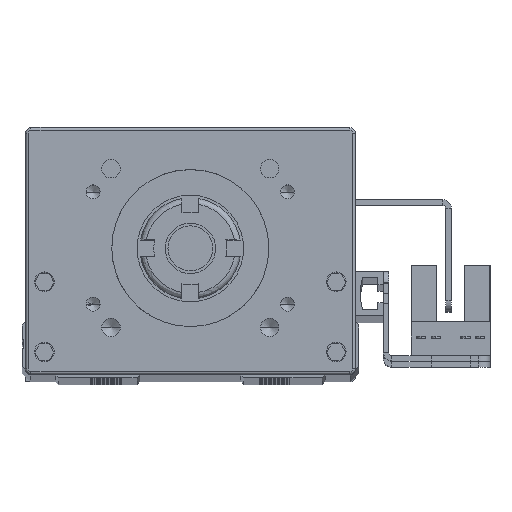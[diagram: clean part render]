
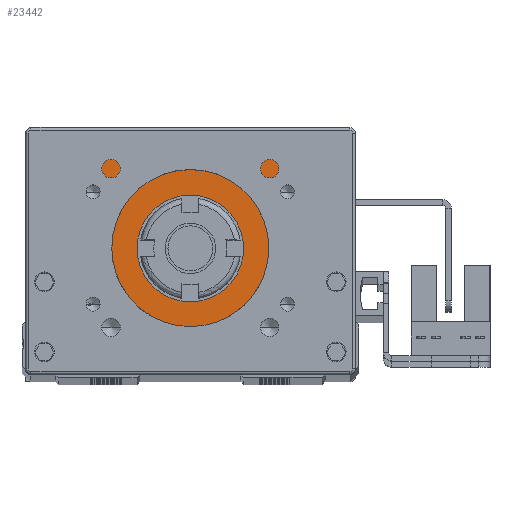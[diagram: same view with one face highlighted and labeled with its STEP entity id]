
A CAD part, top view. The second image highlights one B-rep face of the part: STEP entity #23442.
In plain terms, the highlighted planar face has unit normal (0, 0, 1).
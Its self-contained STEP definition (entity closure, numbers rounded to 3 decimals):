
#826 = ORIENTED_EDGE ( 'NONE', *, *, #50977, .F. ) ;
#955 = VECTOR ( 'NONE', #44583, 1000. ) ;
#1130 = LINE ( 'NONE', #20247, #36645 ) ;
#2844 = VERTEX_POINT ( 'NONE', #44992 ) ;
#3441 = ORIENTED_EDGE ( 'NONE', *, *, #48577, .F. ) ;
#3517 = CARTESIAN_POINT ( 'NONE',  ( 12.335, 12.398, 368.5 ) ) ;
#3950 = DIRECTION ( 'NONE',  ( -1., 0., 0. ) ) ;
#4101 = CARTESIAN_POINT ( 'NONE',  ( 11.335, 44.398, 368.5 ) ) ;
#5013 = CIRCLE ( 'NONE', #17522, 9.5 ) ;
#5649 = VERTEX_POINT ( 'NONE', #34800 ) ;
#7016 = EDGE_CURVE ( 'NONE', #8410, #59598, #48194, .T. ) ;
#7990 = CARTESIAN_POINT ( 'NONE',  ( 52.335, 35.398, 368.5 ) ) ;
#8410 = VERTEX_POINT ( 'NONE', #60158 ) ;
#8625 = DIRECTION ( 'NONE',  ( -1., 0., 0. ) ) ;
#9176 = DIRECTION ( 'NONE',  ( -1., 0., 0. ) ) ;
#9302 = VERTEX_POINT ( 'NONE', #15714 ) ;
#10356 = LINE ( 'NONE', #54919, #37309 ) ;
#11250 = CARTESIAN_POINT ( 'NONE',  ( 12.335, 12.398, 368.5 ) ) ;
#12679 = LINE ( 'NONE', #61239, #25762 ) ;
#13241 = LINE ( 'NONE', #57735, #19375 ) ;
#13912 = ORIENTED_EDGE ( 'NONE', *, *, #23345, .T. ) ;
#14697 = CARTESIAN_POINT ( 'NONE',  ( 52.335, 44.398, 368.5 ) ) ;
#15269 = CARTESIAN_POINT ( 'NONE',  ( 24.351, 12.398, 368.5 ) ) ;
#15714 = CARTESIAN_POINT ( 'NONE',  ( 11.335, 45.398, 368.5 ) ) ;
#16278 = DIRECTION ( 'NONE',  ( 0., 0., 1. ) ) ;
#16382 = DIRECTION ( 'NONE',  ( 0., 1., 0. ) ) ;
#16436 = VECTOR ( 'NONE', #3950, 1000. ) ;
#16846 = DIRECTION ( 'NONE',  ( -1., 0., 0. ) ) ;
#17250 = ORIENTED_EDGE ( 'NONE', *, *, #53759, .F. ) ;
#17522 = AXIS2_PLACEMENT_3D ( 'NONE', #62755, #23551, #33427 ) ;
#17680 = CARTESIAN_POINT ( 'NONE',  ( 12.935, 35.398, 368.5 ) ) ;
#18746 = ORIENTED_EDGE ( 'NONE', *, *, #61004, .T. ) ;
#19375 = VECTOR ( 'NONE', #8625, 1000. ) ;
#19822 = DIRECTION ( 'NONE',  ( 0., 0., -1. ) ) ;
#20247 = CARTESIAN_POINT ( 'NONE',  ( 52.335, 12.398, 368.5 ) ) ;
#21117 = DIRECTION ( 'NONE',  ( 0., 1., 0. ) ) ;
#22044 = CIRCLE ( 'NONE', #28117, 9.5 ) ;
#22208 = DIRECTION ( 'NONE',  ( -1., 0., 0. ) ) ;
#22751 = VERTEX_POINT ( 'NONE', #14697 ) ;
#23345 = EDGE_CURVE ( 'NONE', #22751, #52157, #38855, .T. ) ;
#23442 = ADVANCED_FACE ( 'NONE', ( #38120, #28148 ), #49612, .F. ) ;
#23524 = AXIS2_PLACEMENT_3D ( 'NONE', #49836, #19822, #49191 ) ;
#23551 = DIRECTION ( 'NONE',  ( 0., 0., 1. ) ) ;
#23574 = EDGE_CURVE ( 'NONE', #24015, #8410, #10356, .T. ) ;
#23619 = DIRECTION ( 'NONE',  ( 0., 0., 1. ) ) ;
#24015 = VERTEX_POINT ( 'NONE', #59198 ) ;
#24452 = CARTESIAN_POINT ( 'NONE',  ( 53.335, 45.398, 368.5 ) ) ;
#25762 = VECTOR ( 'NONE', #16846, 1000. ) ;
#28117 = AXIS2_PLACEMENT_3D ( 'NONE', #55867, #16278, #41461 ) ;
#28148 = FACE_OUTER_BOUND ( 'NONE', #31431, .T. ) ;
#28409 = EDGE_CURVE ( 'NONE', #38693, #24015, #34127, .T. ) ;
#28485 = DIRECTION ( 'NONE',  ( -1., 0., 0. ) ) ;
#28487 = CARTESIAN_POINT ( 'NONE',  ( 53.335, 44.398, 368.5 ) ) ;
#30816 = EDGE_CURVE ( 'NONE', #52157, #9302, #13241, .T. ) ;
#31431 = EDGE_LOOP ( 'NONE', ( #32768, #18746, #17250, #53420, #45749, #36108, #13912, #44240, #57211, #32211, #57067, #61211 ) ) ;
#32211 = ORIENTED_EDGE ( 'NONE', *, *, #55511, .F. ) ;
#32323 = CIRCLE ( 'NONE', #42297, 14. ) ;
#32768 = ORIENTED_EDGE ( 'NONE', *, *, #28409, .F. ) ;
#33427 = DIRECTION ( 'NONE',  ( 1., 0., 0. ) ) ;
#33498 = VECTOR ( 'NONE', #22208, 1000. ) ;
#33814 = EDGE_CURVE ( 'NONE', #2844, #42863, #40753, .T. ) ;
#33940 = CARTESIAN_POINT ( 'NONE',  ( 41.835, 23.898, 368.5 ) ) ;
#34127 = LINE ( 'NONE', #39586, #955 ) ;
#34800 = CARTESIAN_POINT ( 'NONE',  ( 40.32, 12.398, 368.5 ) ) ;
#35722 = DIRECTION ( 'NONE',  ( 0., 1., 0. ) ) ;
#36108 = ORIENTED_EDGE ( 'NONE', *, *, #50381, .T. ) ;
#36459 = CARTESIAN_POINT ( 'NONE',  ( 22.835, 23.898, 368.5 ) ) ;
#36645 = VECTOR ( 'NONE', #41396, 1000. ) ;
#36649 = CARTESIAN_POINT ( 'NONE',  ( 12.335, 44.398, 368.5 ) ) ;
#37309 = VECTOR ( 'NONE', #16382, 1000. ) ;
#38120 = FACE_BOUND ( 'NONE', #40124, .T. ) ;
#38142 = DIRECTION ( 'NONE',  ( -1., 0., 0. ) ) ;
#38693 = VERTEX_POINT ( 'NONE', #15269 ) ;
#38855 = CIRCLE ( 'NONE', #51578, 1. ) ;
#39586 = CARTESIAN_POINT ( 'NONE',  ( 12.335, 12.398, 368.5 ) ) ;
#39912 = LINE ( 'NONE', #11250, #43057 ) ;
#40124 = EDGE_LOOP ( 'NONE', ( #3441, #826 ) ) ;
#40753 = LINE ( 'NONE', #60742, #58487 ) ;
#40927 = CIRCLE ( 'NONE', #63173, 1. ) ;
#41396 = DIRECTION ( 'NONE',  ( 0., 1., 0. ) ) ;
#41461 = DIRECTION ( 'NONE',  ( 1., 0., 0. ) ) ;
#42041 = VERTEX_POINT ( 'NONE', #33940 ) ;
#42297 = AXIS2_PLACEMENT_3D ( 'NONE', #53116, #23619, #9176 ) ;
#42863 = VERTEX_POINT ( 'NONE', #55152 ) ;
#43057 = VECTOR ( 'NONE', #21117, 1000. ) ;
#44240 = ORIENTED_EDGE ( 'NONE', *, *, #30816, .T. ) ;
#44583 = DIRECTION ( 'NONE',  ( -1., 0., 0. ) ) ;
#44992 = CARTESIAN_POINT ( 'NONE',  ( 51.735, 12.398, 368.5 ) ) ;
#45615 = CARTESIAN_POINT ( 'NONE',  ( 12.335, 35.398, 368.5 ) ) ;
#45743 = LINE ( 'NONE', #3517, #16436 ) ;
#45749 = ORIENTED_EDGE ( 'NONE', *, *, #48981, .F. ) ;
#48194 = LINE ( 'NONE', #17680, #33498 ) ;
#48577 = EDGE_CURVE ( 'NONE', #42041, #54978, #22044, .T. ) ;
#48981 = EDGE_CURVE ( 'NONE', #49158, #42863, #12679, .T. ) ;
#49024 = VERTEX_POINT ( 'NONE', #36649 ) ;
#49158 = VERTEX_POINT ( 'NONE', #7990 ) ;
#49191 = DIRECTION ( 'NONE',  ( -1., 0., 0. ) ) ;
#49612 = PLANE ( 'NONE',  #23524 ) ;
#49836 = CARTESIAN_POINT ( 'NONE',  ( 12.335, 12.398, 368.5 ) ) ;
#50381 = EDGE_CURVE ( 'NONE', #49158, #22751, #1130, .T. ) ;
#50977 = EDGE_CURVE ( 'NONE', #54978, #42041, #5013, .T. ) ;
#51578 = AXIS2_PLACEMENT_3D ( 'NONE', #28487, #58191, #38142 ) ;
#52157 = VERTEX_POINT ( 'NONE', #24452 ) ;
#53036 = DIRECTION ( 'NONE',  ( 0., 0., -1. ) ) ;
#53116 = CARTESIAN_POINT ( 'NONE',  ( 32.335, 23.898, 368.5 ) ) ;
#53420 = ORIENTED_EDGE ( 'NONE', *, *, #33814, .T. ) ;
#53759 = EDGE_CURVE ( 'NONE', #2844, #5649, #45743, .T. ) ;
#54919 = CARTESIAN_POINT ( 'NONE',  ( 12.935, 0., 368.5 ) ) ;
#54978 = VERTEX_POINT ( 'NONE', #36459 ) ;
#55152 = CARTESIAN_POINT ( 'NONE',  ( 51.735, 35.398, 368.5 ) ) ;
#55511 = EDGE_CURVE ( 'NONE', #59598, #49024, #39912, .T. ) ;
#55867 = CARTESIAN_POINT ( 'NONE',  ( 32.335, 23.898, 368.5 ) ) ;
#57067 = ORIENTED_EDGE ( 'NONE', *, *, #7016, .F. ) ;
#57211 = ORIENTED_EDGE ( 'NONE', *, *, #58482, .T. ) ;
#57735 = CARTESIAN_POINT ( 'NONE',  ( 12.335, 45.398, 368.5 ) ) ;
#58191 = DIRECTION ( 'NONE',  ( 0., 0., -1. ) ) ;
#58482 = EDGE_CURVE ( 'NONE', #9302, #49024, #40927, .T. ) ;
#58487 = VECTOR ( 'NONE', #35722, 1000. ) ;
#59198 = CARTESIAN_POINT ( 'NONE',  ( 12.935, 12.398, 368.5 ) ) ;
#59598 = VERTEX_POINT ( 'NONE', #45615 ) ;
#60158 = CARTESIAN_POINT ( 'NONE',  ( 12.935, 35.398, 368.5 ) ) ;
#60742 = CARTESIAN_POINT ( 'NONE',  ( 51.735, 0., 368.5 ) ) ;
#61004 = EDGE_CURVE ( 'NONE', #38693, #5649, #32323, .T. ) ;
#61211 = ORIENTED_EDGE ( 'NONE', *, *, #23574, .F. ) ;
#61239 = CARTESIAN_POINT ( 'NONE',  ( 51.735, 35.398, 368.5 ) ) ;
#62755 = CARTESIAN_POINT ( 'NONE',  ( 32.335, 23.898, 368.5 ) ) ;
#63173 = AXIS2_PLACEMENT_3D ( 'NONE', #4101, #53036, #28485 ) ;
